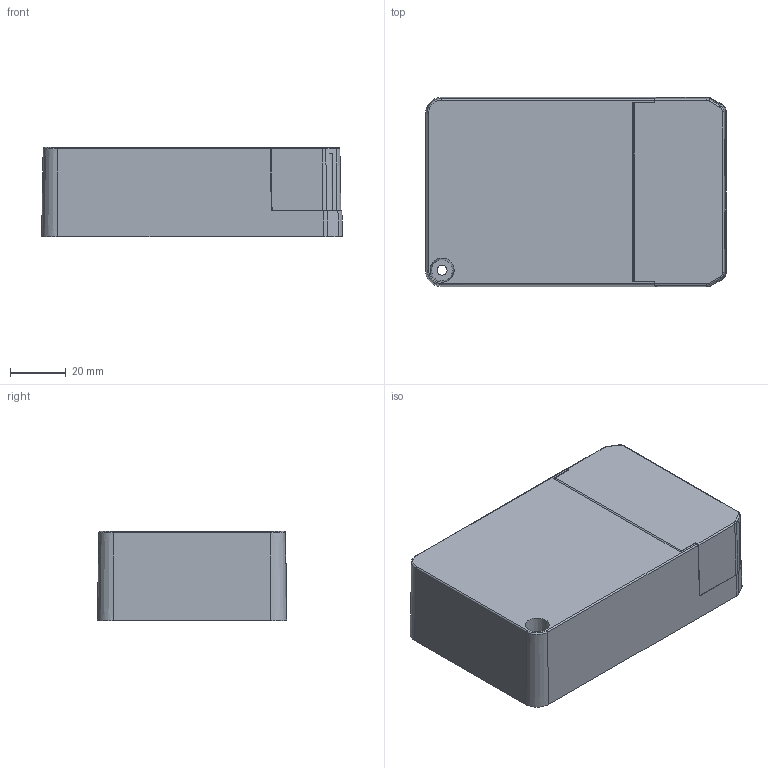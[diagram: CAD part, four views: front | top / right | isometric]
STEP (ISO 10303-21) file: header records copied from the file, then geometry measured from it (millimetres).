
FILE_DESCRIPTION(/* description */ (''),/* implementation_level */ '2;1');
FILE_NAME(/* name */ 'C:\Users\310143630\OneDrive - Philips Lighting\Private\Data\2019\P0025817 Xi 40W TW Wireless (SSKU)\housing\MK\9290 014 23480 Xitanium 59W 1.3-1.4A 42V I 230V.stp',/* time_stamp */ '2020-09-10T10:49:07+08:00',/* author */ ('310143630'),/* organization */ (''),/* preprocessor_version */ 'ST-DEVELOPER v16.5',/* originating_system */ 'Autodesk Inventor 2017',/* authorisation */ '');
FILE_SCHEMA (('AUTOMOTIVE_DESIGN { 1 0 10303 214 3 1 1 }'));
Length unit declared in the file: millimetre
Products named in the file (6): HOUSING MK; TW cover; insert_new; 442240963011 ST3x16; Spec_442240959011; Spec_442240959011_1
Assembly tree (7 placements, depth 2):
  HOUSING MK
    TW cover
    insert_new  x2
    442240963011 ST3x16  x2
    Spec_442240959011
    Spec_442240959011_1
Bounding box: 108 x 68 x 32 mm (x, y, z)
Volume: 230193.8 mm3; surface area: 79418.8 mm2
Topology: 7 solids, 8 shells, 1017 faces, 2697 edges, 1708 vertices
Faces by surface type: plane 570, cylinder 218, bspline 158, cone 36, sphere 19, torus 16
Full cylindrical faces by diameter (mm): 2.9 x2, 3.6 x3
Entity records: 26214 total; most frequent: CARTESIAN_POINT 6730, ORIENTED_EDGE 4160, DIRECTION 3828, EDGE_CURVE 2080, LINE 1530, VECTOR 1530, VERTEX_POINT 1342, AXIS2_PLACEMENT_3D 1149
